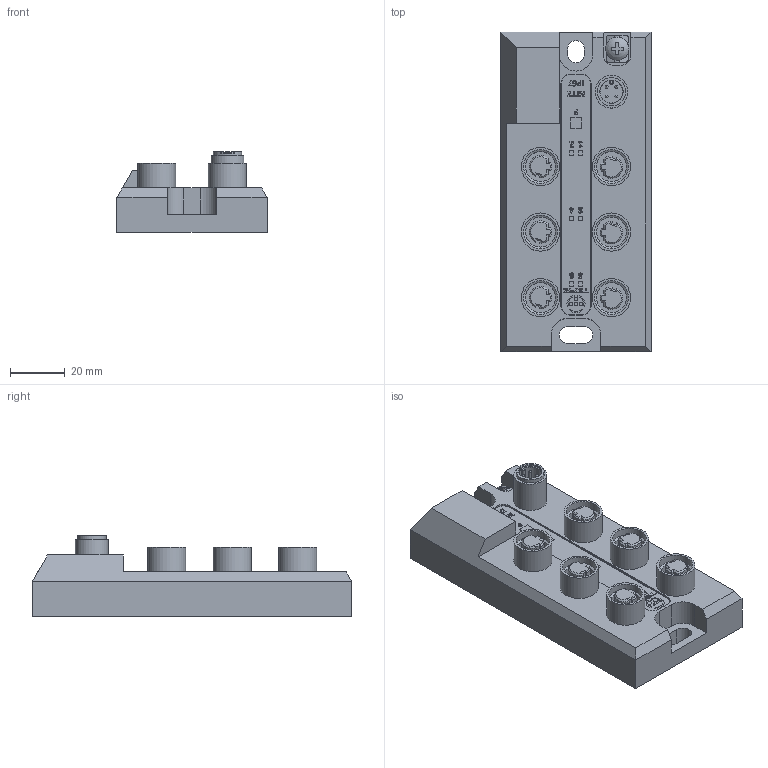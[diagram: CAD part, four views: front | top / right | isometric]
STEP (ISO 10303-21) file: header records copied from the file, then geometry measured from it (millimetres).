
FILE_DESCRIPTION((''),'2;1');
FILE_NAME('K:\01_NAS01\TZDATA01\03_Entwicklung\20_Tenado\01_Projects\TZTD002_NITE-XS\Kundenzeichnungen und Modelle\NITE-XS6\TZCA41150XA_NITE-XS6.stp','2018-05-31T14:26:13',('Autor'),('',''),'Top Systems','StepLib','');
FILE_SCHEMA(('CONFIG_CONTROL_DESIGN'));
Length unit declared in the file: metre
Products named in the file (1): None
Bounding box: 55 x 117 x 29.6 mm (x, y, z)
Volume: 107801.7 mm3; surface area: 26610.6 mm2
Topology: 1 solids, 1 shells, 1049 faces, 2866 edges, 1878 vertices
Faces by surface type: bspline 649, plane 265, cylinder 93, cone 34, sphere 5, extrusion 3
Full cylindrical faces by diameter (mm): 1 x4, 4 x2, 4.3 x1, 8.4 x1, 8.5 x1, 9.6 x1, 10.4 x1, 11 x6, 12 x1, 12.2 x6, 12.35 x6, 14 x6
Entity records: 36769 total; most frequent: CARTESIAN_POINT 14501, ORIENTED_EDGE 5632, EDGE_CURVE 2816, DIRECTION 2502, VERTEX_POINT 1873, B_SPLINE_CURVE_WITH_KNOTS 1348, VECTOR 1240, LINE 1237
